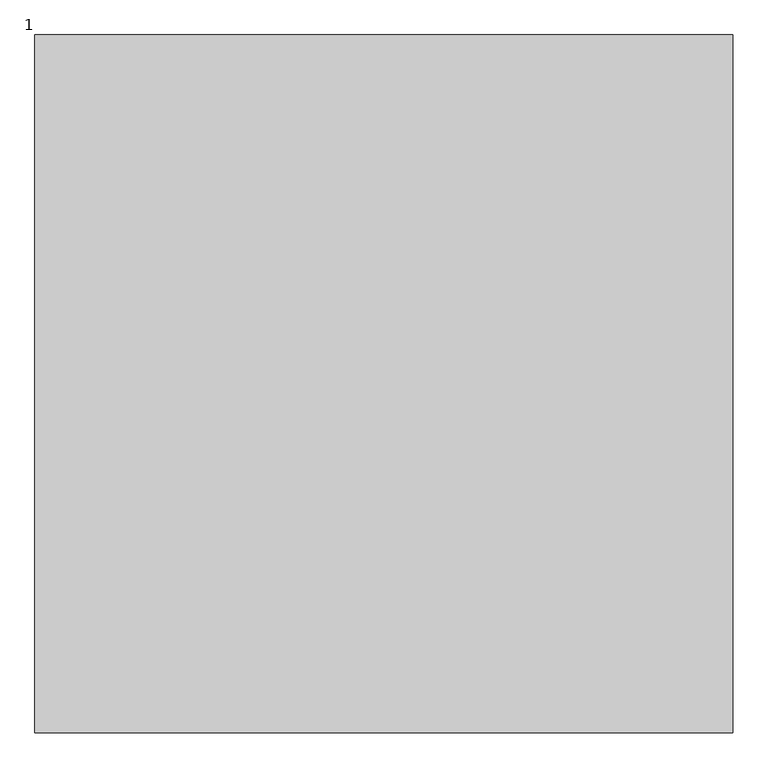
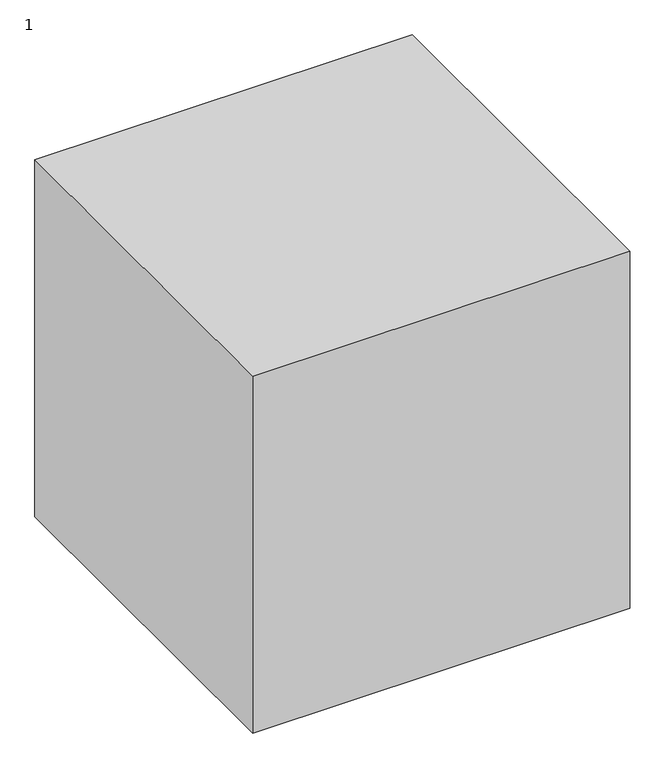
"""IFC4 building model written with IfcOpenShell, lengths in millimetres: proxy geometry, 1223111 : 1."""

from ifc_helpers import new_model, si_unit, origin, origin_with_axes, place, context, project, spatial, polyline, outline, extrude, source, transform, mapped, element, save


def proxy_1_b6302ffd(model_context):
    return source(origin(), model_context, "Body", "SweptSolid", [
        extrude(outline(polyline([(-20307.9756708, -4664.7705528), (-20307.9756708, -5664.7705528), (-21307.9756708, -5664.7705528), (-21307.9756708, -4664.7705528), (-20307.9756708, -4664.7705528)])), origin_with_axes(), (0.0, 0.0, 1.0), 1000.0),
    ])


if __name__ == "__main__":
    model = new_model("IFC4")
    model_context = context("Model", 3, world=origin())
    ifc_project = project(units=[si_unit("LENGTHUNIT", "METRE", prefix="MILLI")], contexts=[model_context])
    site = spatial("IfcSite", under=ifc_project)
    building = spatial("IfcBuilding", under=site)
    placement = place(None, origin())
    proxy_1_shape = proxy_1_b6302ffd(model_context)
    element("IfcBuildingElementProxy", 1, Name="1223111 : 1", ObjectType="1223111 : 1", at=placement, inside=building, context=model_context, shape_type="MappedRepresentation", body=[
        mapped(proxy_1_shape, transform((0.0, 0.0, 0.0), x_axis=(1.0, 0.0, 0.0), y_axis=(0.0, 1.0, 0.0), z_axis=(0.0, 0.0, 1.0))),
    ])
    save(model, "model.ifc")
